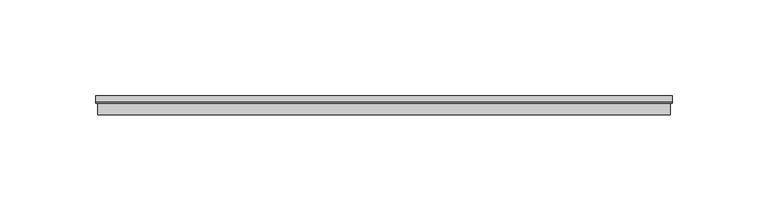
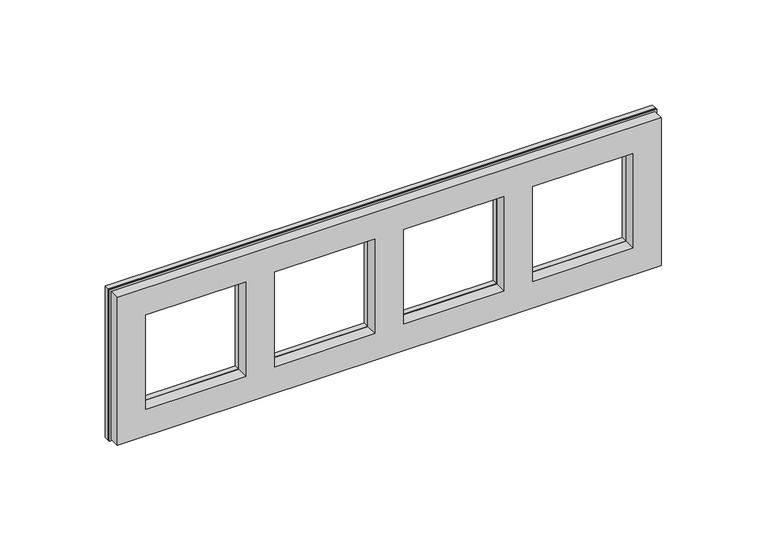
"""IFC4 building model written with IfcOpenShell, lengths in millimetres: proxy geometry, IEK_Brite_Рамка : x4_РУ-4-1-БрА металл алюм.."""

import ifcopenshell
import ifcopenshell.guid

model = None  # the IFC model being written
_history = None  # IfcOwnerHistory: only IFC2X3 demands one
_inside = {}  # id of a spatial element -> (the spatial element, [elements in it])
_under = {}  # id of a project, library or spatial element -> (it, [spatial elements below it])
_declared = {}  # id of a project -> (the project, [libraries it declares])
_typed = {}  # id of a type object -> (the type object, [elements of that type])
_made_of = {}  # id of a material, layer set ... -> (it, [elements and type objects made of it])


def new_model(schema):
    """Start an empty IFC model of exactly this schema.

    Asked for "IFC4X3", IfcOpenShell would pick the latest addendum, in which some entities
    have other attributes; the version numbers below select the first issue.
    IFC2X3 requires an IfcOwnerHistory on every rooted entity: one is made here for all.
    """
    global model, _history
    if schema == "IFC4X3":
        model = ifcopenshell.file(schema_version=(4, 3, 0, 0))
    else:
        model = ifcopenshell.file(schema=schema)
    _inside.clear()
    _under.clear()
    _declared.clear()
    _typed.clear()
    _made_of.clear()
    _history = None
    if model.schema == "IFC2X3":
        org = make("IfcOrganization", Name="unknown")
        user = make(
            "IfcPersonAndOrganization",
            ThePerson=make("IfcPerson", FamilyName="unknown"),
            TheOrganization=org,
        )
        app = make(
            "IfcApplication",
            ApplicationDeveloper=org,
            Version="unknown",
            ApplicationFullName="unknown",
            ApplicationIdentifier="unknown",
        )
        _history = make(
            "IfcOwnerHistory",
            OwningUser=user,
            OwningApplication=app,
            ChangeAction="ADDED",
            CreationDate=0,
        )
    return model


def make(cls, **values):
    """One entity of the class cls with the attributes given. An attribute that is None is left unset."""
    return model.create_entity(
        cls, **{name: value for name, value in values.items() if value is not None}
    )


def rooted(cls, **values):
    """An entity with a GlobalId (a new one), such as an element, a storey or a relation."""
    return make(cls, GlobalId=ifcopenshell.guid.new(), OwnerHistory=_history, **values)


def si_unit(unit_type, name, prefix=None):
    """IfcSIUnit, for example si_unit("LENGTHUNIT", "METRE", prefix="MILLI")."""
    return make("IfcSIUnit", UnitType=unit_type, Prefix=prefix, Name=name)


def assignment(units):
    """IfcUnitAssignment: the units of a project."""
    return None if units is None else make("IfcUnitAssignment", Units=units)


def point(xyz):
    """IfcCartesianPoint."""
    return None if xyz is None else make("IfcCartesianPoint", Coordinates=xyz)


def direction(xyz):
    """IfcDirection."""
    return None if xyz is None else make("IfcDirection", DirectionRatios=xyz)


def frame(location, z_axis=None, x_axis=None):
    """IfcAxis2Placement3D, a coordinate frame: its origin and axes. An axis left out is left unset."""
    return make(
        "IfcAxis2Placement3D",
        Location=point(location),
        Axis=direction(z_axis),
        RefDirection=direction(x_axis),
    )


def origin():
    """The frame at (0, 0, 0) with its axes left unset."""
    return frame((0.0, 0.0, 0.0))


def place(relative_to, where):
    """IfcLocalPlacement: puts the frame where relative to a parent placement (None: the world)."""
    return make(
        "IfcLocalPlacement", PlacementRelTo=relative_to, RelativePlacement=where
    )


def context(
    kind, dimensions, precision=None, world=None, true_north=None, identifier=None
):
    """IfcGeometricRepresentationContext, for example the 3D "Model" context."""
    return make(
        "IfcGeometricRepresentationContext",
        ContextIdentifier=identifier,
        ContextType=kind,
        CoordinateSpaceDimension=dimensions,
        Precision=precision,
        WorldCoordinateSystem=world,
        TrueNorth=true_north,
    )


def project(units=None, contexts=None):
    """IfcProject with its units and contexts."""
    return rooted(
        "IfcProject",
        Name="project",
        RepresentationContexts=contexts,
        UnitsInContext=assignment(units),
    )


def spatial(cls, under=None, at=None, **own):
    """A site, building, storey or space (cls), placed at a placement, below another one or the project."""
    s = rooted(cls, ObjectPlacement=at, **own)
    if under is not None:
        _under.setdefault(under.id(), (under, []))[1].append(s)
    return s


def polyline(points):
    """IfcPolyline through the points."""
    return make("IfcPolyline", Points=[point(p) for p in points])


def outline(outer, holes=None, kind="AREA"):
    """IfcArbitraryClosedProfileDef: a profile drawn as a closed curve; with holes, ...WithVoids."""
    if holes is None:
        return make("IfcArbitraryClosedProfileDef", ProfileType=kind, OuterCurve=outer)
    return make(
        "IfcArbitraryProfileDefWithVoids",
        ProfileType=kind,
        OuterCurve=outer,
        InnerCurves=holes,
    )


def extrude(swept, where, along, depth):
    """IfcExtrudedAreaSolid: the profile swept, set in the frame where, extruded along a direction by depth."""
    return make(
        "IfcExtrudedAreaSolid",
        SweptArea=swept,
        Position=where,
        ExtrudedDirection=direction(along),
        Depth=depth,
    )


def faces_of(points, faces, orient=None, outer=None):
    """IfcFace entities. A face is a list of loops; a loop is a list of indices into points, from 0.

    orient and outer hold one flag for each loop. By default every Orientation is true, the
    first loop of a face is its IfcFaceOuterBound and the others are IfcFaceBound.
    """
    made = []
    for i, loops in enumerate(faces):
        bounds = []
        for j, loop in enumerate(loops):
            is_outer = j == 0 if outer is None else outer[i][j]
            bounds.append(
                make(
                    "IfcFaceOuterBound" if is_outer else "IfcFaceBound",
                    Bound=make("IfcPolyLoop", Polygon=[points[k] for k in loop]),
                    Orientation=True if orient is None else orient[i][j],
                )
            )
        made.append(make("IfcFace", Bounds=bounds))
    return made


def faceted_brep(points, faces, orient=None, outer=None, voids=None):
    """IfcFacetedBrep: a solid bounded by flat faces; with voids (closed shells), ...WithVoids."""
    shared = [point(p) for p in points]
    hull = make("IfcClosedShell", CfsFaces=faces_of(shared, faces, orient, outer))
    if voids is None:
        return make("IfcFacetedBrep", Outer=hull)
    return make(
        "IfcFacetedBrepWithVoids",
        Outer=hull,
        Voids=[
            make(cls, CfsFaces=faces_of(shared, fs, o, b)) for cls, fs, o, b in voids
        ],
    )


def shape(context_of_items, identifier, shape_type, items):
    """IfcShapeRepresentation: the items that make up one representation, for example the "Body"."""
    return make(
        "IfcShapeRepresentation",
        ContextOfItems=context_of_items,
        RepresentationIdentifier=identifier,
        RepresentationType=shape_type,
        Items=items,
    )


def source(mapping_origin, context_of_items, identifier, shape_type, items):
    """IfcRepresentationMap: a shape defined once, which mapped items show again and again."""
    return make(
        "IfcRepresentationMap",
        MappingOrigin=mapping_origin,
        MappedRepresentation=shape(context_of_items, identifier, shape_type, items),
    )


def transform(
    local_origin,
    x_axis=None,
    y_axis=None,
    z_axis=None,
    scale=None,
    scale2=None,
    scale3=None,
    uniform=True,
):
    """IfcCartesianTransformationOperator3D, or its non-uniform kind. x_axis, y_axis, z_axis: its Axis1, 2, 3."""
    if uniform:
        return make(
            "IfcCartesianTransformationOperator3D",
            Axis1=direction(x_axis),
            Axis2=direction(y_axis),
            LocalOrigin=point(local_origin),
            Scale=scale,
            Axis3=direction(z_axis),
        )
    return make(
        "IfcCartesianTransformationOperator3DnonUniform",
        Axis1=direction(x_axis),
        Axis2=direction(y_axis),
        LocalOrigin=point(local_origin),
        Scale=scale,
        Axis3=direction(z_axis),
        Scale2=scale2,
        Scale3=scale3,
    )


def mapped(mapping_source, mapping_target):
    """IfcMappedItem: shows the shape of a source again, moved by a transform."""
    return make(
        "IfcMappedItem", MappingSource=mapping_source, MappingTarget=mapping_target
    )


def made_of(thing, what):
    """Note that an element or type object is made of a material, layer set ...; save() writes the relation."""
    if what is not None:
        _made_of.setdefault(what.id(), (what, []))[1].append(thing)
    return thing


def element(
    cls,
    number,
    at=None,
    inside=None,
    cuts=None,
    type_object=None,
    material=None,
    context=None,
    identifier="Body",
    shape_type=None,
    held_by="IfcProductDefinitionShape",
    body=None,
    shapes=None,
    **own,
):
    """One element of the class cls, such as IfcWall. Its Tag is "e" and its number.

    at: its placement. inside: the storey or other place that contains it. cuts: it is an
    opening in that element (IfcRelVoidsElement). A single representation is given by context,
    identifier, shape_type and body (its items); several are given by shapes. held_by: the class
    of the entity that holds the representations. save() writes the other relations.
    """
    e = rooted(cls, Tag="e%d" % number, ObjectPlacement=at, **own)
    if body is not None:
        shapes = [shape(context, identifier, shape_type, body)]
    if shapes is not None:
        e.Representation = make(held_by, Representations=shapes)
    if inside is not None:
        _inside.setdefault(inside.id(), (inside, []))[1].append(e)
    if cuts is not None:
        rooted(
            "IfcRelVoidsElement", RelatingBuildingElement=cuts, RelatedOpeningElement=e
        )
    if type_object is not None:
        _typed.setdefault(type_object.id(), (type_object, []))[1].append(e)
    return made_of(e, material)


def aggregate(whole, parts):
    """IfcRelAggregates: a whole, such as a stair, and the parts it consists of."""
    return rooted("IfcRelAggregates", RelatingObject=whole, RelatedObjects=parts)


def save(model, path):
    """Write the relations noted so far, then the file.

    IfcRelAggregates (storeys below a building ...), IfcRelContainedInSpatialStructure (elements
    in a storey), IfcRelDefinesByType, IfcRelAssociatesMaterial and IfcRelDeclares: one each for
    every whole, place, type object, material and project.
    """
    for whole, parts in _under.values():
        aggregate(whole, parts)
    for where, things in _inside.values():
        rooted(
            "IfcRelContainedInSpatialStructure",
            RelatedElements=things,
            RelatingStructure=where,
        )
    for kind, things in _typed.values():
        rooted("IfcRelDefinesByType", RelatedObjects=things, RelatingType=kind)
    for what, things in _made_of.values():
        rooted("IfcRelAssociatesMaterial", RelatedObjects=things, RelatingMaterial=what)
    for by, libraries in _declared.values():
        rooted("IfcRelDeclares", RelatingContext=by, RelatedDefinitions=libraries)
    model.write(path)


def electrical_fixtures_1d4d6cfc(model_context):
    return source(origin(), model_context, "Body", "SolidModel", [
        extrude(outline(polyline([(44.0, -257.0), (-44.0, -257.0), (-44.0, 44.0), (44.0, 44.0), (44.0, -257.0)]), holes=[polyline([(-27.5, -98.5), (27.5, -98.5), (27.5, -43.5), (-27.5, -43.5), (-27.5, -98.5)]), polyline([(-27.5, -169.5), (27.5, -169.5), (27.5, -114.5), (-27.5, -114.5), (-27.5, -169.5)]), polyline([(-27.5, -240.5), (27.5, -240.5), (27.5, -185.5), (-27.5, -185.5), (-27.5, -240.5)]), polyline([(-27.5, -27.5), (27.5, -27.5), (27.5, 27.5), (-27.5, 27.5), (-27.5, -27.5)])]), frame((0.0, 7.0, 0.0), z_axis=(0.0, 1.0, 0.0), x_axis=(0.0, 0.0, 1.0)), (0.0, 0.0, 1.0), 3.0),
        faceted_brep([(-257.0, 7.0, 44.0), (44.0, 7.0, 44.0), (44.0, 7.0, -44.0), (-257.0, 7.0, -44.0), (-240.5, 7.0, 27.5), (-240.5, 7.0, -27.5), (-185.5, 7.0, -27.5), (-185.5, 7.0, 27.5), (-169.5, 7.0, 27.5), (-169.5, 7.0, -27.5), (-114.5, 7.0, -27.5), (-114.5, 7.0, 27.5), (-98.5, 7.0, 27.5), (-98.5, 7.0, -27.5), (-43.5, 7.0, -27.5), (-43.5, 7.0, 27.5), (-27.5, 7.0, 27.5), (-27.5, 7.0, -27.5), (27.5, 7.0, -27.5), (27.5, 7.0, 27.5), (-256.0, 0.0, 43.0), (-256.0, 0.0, -43.0), (43.0, 0.0, -43.0), (43.0, 0.0, 43.0), (-240.5, 0.0, -27.5), (-240.5, 0.0, 27.5), (-185.5, 0.0, 27.5), (-185.5, 0.0, -27.5), (-169.5, 0.0, -27.5), (-169.5, 0.0, 27.5), (-114.5, 0.0, 27.5), (-114.5, 0.0, -27.5), (-98.5, 0.0, -27.5), (-98.5, 0.0, 27.5), (-43.5, 0.0, 27.5), (-43.5, 0.0, -27.5), (-27.5, 0.0, -27.5), (-27.5, 0.0, 27.5), (27.5, 0.0, 27.5), (27.5, 0.0, -27.5), (-256.0, 6.0, 43.0), (-256.0, 6.0, -43.0), (43.0, 6.0, -43.0), (43.0, 6.0, 43.0), (-257.0, 6.0, 44.0), (-257.0, 6.0, -44.0), (44.0, 6.0, -44.0), (44.0, 6.0, 44.0)], [[[0, 1, 2, 3], [4, 5, 6, 7], [8, 9, 10, 11], [12, 13, 14, 15], [16, 17, 18, 19]], [[20, 21, 22, 23], [24, 25, 26, 27], [28, 29, 30, 31], [32, 33, 34, 35], [36, 37, 38, 39]], [[21, 20, 40, 41]], [[22, 21, 41, 42]], [[23, 22, 42, 43]], [[20, 23, 43, 40]], [[44, 45, 46, 47], [41, 40, 43, 42]], [[45, 44, 0, 3]], [[46, 45, 3, 2]], [[47, 46, 2, 1]], [[44, 47, 1, 0]], [[4, 25, 24, 5]], [[5, 24, 27, 6]], [[6, 27, 26, 7]], [[25, 4, 7, 26]], [[8, 29, 28, 9]], [[9, 28, 31, 10]], [[10, 31, 30, 11]], [[29, 8, 11, 30]], [[12, 33, 32, 13]], [[13, 32, 35, 14]], [[14, 35, 34, 15]], [[33, 12, 15, 34]], [[16, 37, 36, 17]], [[17, 36, 39, 18]], [[18, 39, 38, 19]], [[37, 16, 19, 38]]]),
    ])


if __name__ == "__main__":
    model = new_model("IFC4")
    model_context = context("Model", 3, world=origin())
    ifc_project = project(units=[si_unit("LENGTHUNIT", "METRE", prefix="MILLI")], contexts=[model_context])
    site = spatial("IfcSite", under=ifc_project)
    building = spatial("IfcBuilding", under=site)
    placement = place(None, origin())
    electrical_fixtures_shape = electrical_fixtures_1d4d6cfc(model_context)
    element("IfcBuildingElementProxy", 1, Name="IEK_Brite_Рамка : x4_РУ-4-1-БрА металл алюм.", ObjectType="IEK_Brite_Рамка : x4_РУ-4-1-БрА металл алюм.", at=placement, inside=building, context=model_context, shape_type="MappedRepresentation", body=[
        mapped(electrical_fixtures_shape, transform((0.0, 0.0, 0.0), x_axis=(1.0, 0.0, 0.0), y_axis=(0.0, 1.0, 0.0), z_axis=(0.0, 0.0, 1.0))),
    ])
    save(model, "model.ifc")
